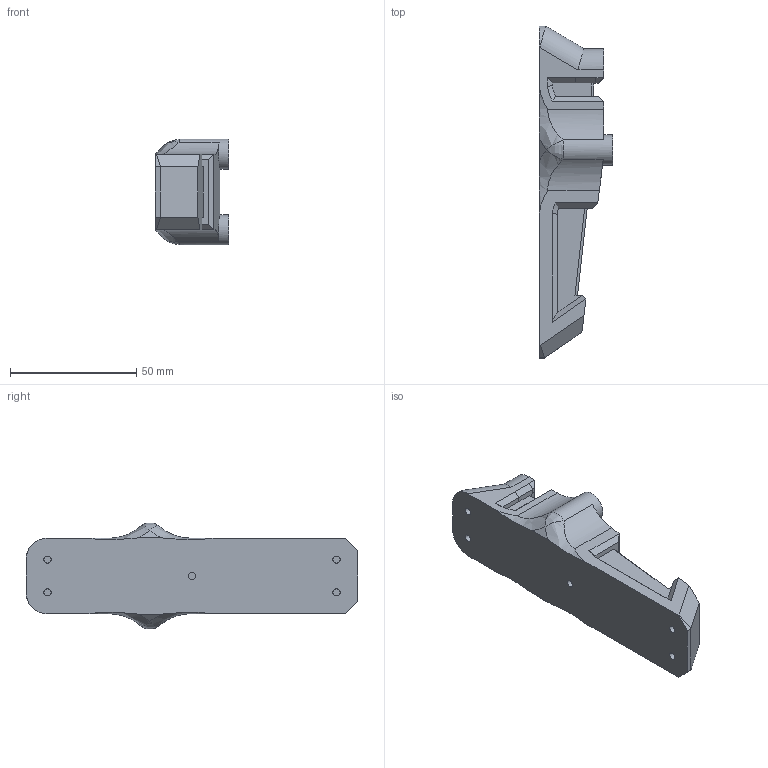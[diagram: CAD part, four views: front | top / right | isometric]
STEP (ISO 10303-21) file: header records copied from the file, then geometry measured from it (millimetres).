
FILE_DESCRIPTION(/* description */ (''),/* implementation_level */ '2;1');
FILE_NAME(/* name */ 'D:/Pew Pews/FGC-9_MkII_Stingray_Edition/Stingray Edition/.step files/3 - Buffer Tube and Stock/Stock/Stock.step',/* time_stamp */ '2022-05-12T10:47:45-06:00',/* author */ (''),/* organization */ (''),/* preprocessor_version */ 'ST-DEVELOPER v18.1',/* originating_system */ 'Autodesk Translation Framework v10.10.0.1391',/* authorisation */ '');
FILE_SCHEMA (('AUTOMOTIVE_DESIGN { 1 0 10303 214 3 1 1 }'));
Length unit declared in the file: millimetre
Products named in the file (1): stock body
Bounding box: 29 x 131.59 x 42 mm (x, y, z)
Volume: 74766.3 mm3; surface area: 15978.9 mm2
Topology: 1 solids, 1 shells, 114 faces, 279 edges, 172 vertices
Faces by surface type: plane 81, cylinder 19, bspline 14
Full cylindrical faces by diameter (mm): 2.85 x5, 6.1 x2, 12 x2
Entity records: 3875 total; most frequent: CARTESIAN_POINT 1246, ORIENTED_EDGE 554, DIRECTION 495, EDGE_CURVE 277, LINE 197, VECTOR 197, VERTEX_POINT 172, AXIS2_PLACEMENT_3D 149
